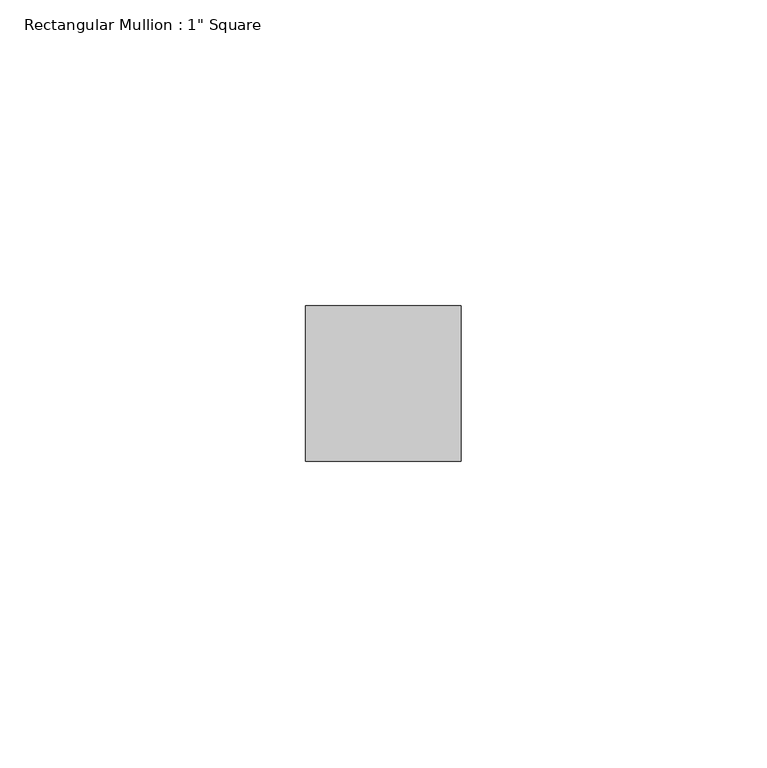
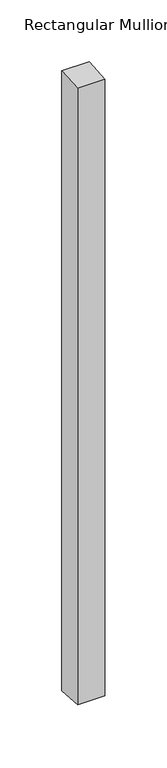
"""IFC4 building model written with IfcOpenShell, lengths in millimetres: member geometry."""

from ifc_helpers import new_model, si_unit, origin, place, context, project, spatial, faceted_brep, source, transform, mapped, element, save


def member_0f5467c3(model_context):
    return source(origin(), model_context, "Body", "Brep", [
        faceted_brep([(-25.4, 12.7, 0.8811356), (0.0, 12.7, 0.8740215), (0.0, 12.7, -610.3587349), (-25.4, 12.7, -610.3649105), (-25.4, -12.7, -0.8669074), (-25.4, -12.7, -608.8474408), (0.0, -12.7, -0.8740215), (0.0, -12.7, -608.8412651)], [[[0, 1, 2, 3]], [[4, 0, 3, 5]], [[6, 4, 5, 7]], [[1, 6, 7, 2]], [[1, 0, 4, 6]], [[2, 7, 5, 3]]]),
    ])


if __name__ == "__main__":
    model = new_model("IFC4")
    model_context = context("Model", 3, world=origin())
    ifc_project = project(units=[si_unit("LENGTHUNIT", "METRE", prefix="MILLI")], contexts=[model_context])
    site = spatial("IfcSite", under=ifc_project)
    building = spatial("IfcBuilding", under=site)
    placement = place(None, origin())
    member_shape = member_0f5467c3(model_context)
    element("IfcMember", 1, ObjectType="Rectangular Mullion : 1\" Square", at=placement, inside=building, context=model_context, shape_type="MappedRepresentation", body=[
        mapped(member_shape, transform((0.0, 0.0, 0.0), x_axis=(1.0, 0.0, 0.0), y_axis=(0.0, 1.0, 0.0), z_axis=(0.0, 0.0, 1.0))),
    ])
    save(model, "model.ifc")
